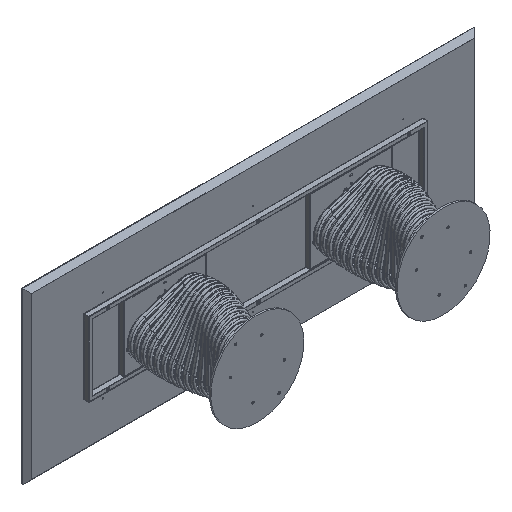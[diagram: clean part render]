
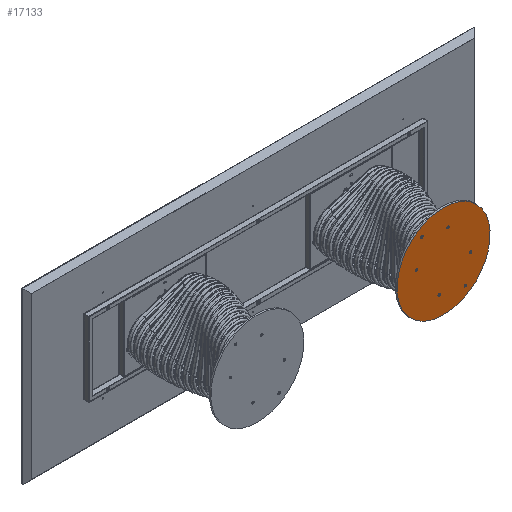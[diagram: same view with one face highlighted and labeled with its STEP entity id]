
A CAD part, isometric view. The second image highlights one B-rep face of the part: STEP entity #17133.
In plain terms, the highlighted planar face has unit normal (0, -1, 0).
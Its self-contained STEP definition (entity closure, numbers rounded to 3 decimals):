
#371 = ORIENTED_EDGE ( 'NONE', *, *, #12466, .F. ) ;
#412 = FACE_OUTER_BOUND ( 'NONE', #4125, .T. ) ;
#438 = CIRCLE ( 'NONE', #19757, 8.65 ) ;
#465 = CIRCLE ( 'NONE', #11072, 8.65 ) ;
#519 = EDGE_LOOP ( 'NONE', ( #21240, #673 ) ) ;
#606 = VERTEX_POINT ( 'NONE', #7004 ) ;
#673 = ORIENTED_EDGE ( 'NONE', *, *, #22962, .F. ) ;
#1602 = EDGE_CURVE ( 'NONE', #12951, #18670, #465, .T. ) ;
#1740 = DIRECTION ( 'NONE',  ( 0., -1., 0. ) ) ;
#1958 = CARTESIAN_POINT ( 'NONE',  ( 0., 0., 0. ) ) ;
#2118 = DIRECTION ( 'NONE',  ( 0., -1., 0. ) ) ;
#2119 = CARTESIAN_POINT ( 'NONE',  ( 150., 0., 151.15 ) ) ;
#2197 = CIRCLE ( 'NONE', #11308, 8.65 ) ;
#2780 = DIRECTION ( 'NONE',  ( 0., 0., -1. ) ) ;
#2972 = EDGE_LOOP ( 'NONE', ( #15050, #3145 ) ) ;
#3145 = ORIENTED_EDGE ( 'NONE', *, *, #10267, .F. ) ;
#3234 = ORIENTED_EDGE ( 'NONE', *, *, #23280, .F. ) ;
#3767 = VERTEX_POINT ( 'NONE', #4471 ) ;
#3863 = FACE_BOUND ( 'NONE', #2972, .T. ) ;
#3885 = CARTESIAN_POINT ( 'NONE',  ( -150., 0., 142.5 ) ) ;
#4125 = EDGE_LOOP ( 'NONE', ( #22492, #6211 ) ) ;
#4282 = AXIS2_PLACEMENT_3D ( 'NONE', #23053, #17615, #21617 ) ;
#4356 = CARTESIAN_POINT ( 'NONE',  ( -150., 0., 133.85 ) ) ;
#4471 = CARTESIAN_POINT ( 'NONE',  ( 150., 0., -151.15 ) ) ;
#5117 = CIRCLE ( 'NONE', #18755, 350. ) ;
#5307 = CARTESIAN_POINT ( 'NONE',  ( -290., 0., 8.65 ) ) ;
#5716 = EDGE_CURVE ( 'NONE', #606, #16769, #20250, .T. ) ;
#5783 = FACE_BOUND ( 'NONE', #519, .T. ) ;
#5938 = EDGE_LOOP ( 'NONE', ( #7562, #20936 ) ) ;
#6174 = CARTESIAN_POINT ( 'NONE',  ( 290., 0., 0. ) ) ;
#6211 = ORIENTED_EDGE ( 'NONE', *, *, #7279, .F. ) ;
#6315 = CIRCLE ( 'NONE', #11621, 8.65 ) ;
#6410 = DIRECTION ( 'NONE',  ( 0., -1., 0. ) ) ;
#6542 = AXIS2_PLACEMENT_3D ( 'NONE', #1958, #10742, #11214 ) ;
#6624 = EDGE_CURVE ( 'NONE', #3767, #11114, #16498, .T. ) ;
#6643 = CARTESIAN_POINT ( 'NONE',  ( 0., 0., 0. ) ) ;
#6935 = AXIS2_PLACEMENT_3D ( 'NONE', #9788, #9551, #2780 ) ;
#7004 = CARTESIAN_POINT ( 'NONE',  ( -150., 0., -151.15 ) ) ;
#7182 = DIRECTION ( 'NONE',  ( 0., 0., 1. ) ) ;
#7279 = EDGE_CURVE ( 'NONE', #15520, #22841, #23332, .T. ) ;
#7427 = FACE_BOUND ( 'NONE', #15314, .T. ) ;
#7497 = CARTESIAN_POINT ( 'NONE',  ( 150., 0., 142.5 ) ) ;
#7562 = ORIENTED_EDGE ( 'NONE', *, *, #11663, .F. ) ;
#8355 = CARTESIAN_POINT ( 'NONE',  ( 290., 0., 8.65 ) ) ;
#8453 = CIRCLE ( 'NONE', #4282, 8.65 ) ;
#8981 = FACE_BOUND ( 'NONE', #5938, .T. ) ;
#8992 = DIRECTION ( 'NONE',  ( 0., 0., -1. ) ) ;
#9376 = DIRECTION ( 'NONE',  ( 0., 0., -1. ) ) ;
#9396 = CIRCLE ( 'NONE', #18080, 8.65 ) ;
#9514 = ORIENTED_EDGE ( 'NONE', *, *, #16293, .F. ) ;
#9551 = DIRECTION ( 'NONE',  ( 0., -1., 0. ) ) ;
#9594 = CARTESIAN_POINT ( 'NONE',  ( 150., 0., 142.5 ) ) ;
#9788 = CARTESIAN_POINT ( 'NONE',  ( -290., 0., 0. ) ) ;
#10092 = VERTEX_POINT ( 'NONE', #8355 ) ;
#10267 = EDGE_CURVE ( 'NONE', #16769, #606, #8453, .T. ) ;
#10454 = EDGE_CURVE ( 'NONE', #19564, #17444, #9396, .T. ) ;
#10489 = CARTESIAN_POINT ( 'NONE',  ( 0., 0., -350. ) ) ;
#10518 = AXIS2_PLACEMENT_3D ( 'NONE', #11443, #16552, #17041 ) ;
#10571 = DIRECTION ( 'NONE',  ( 0., -1., 0. ) ) ;
#10742 = DIRECTION ( 'NONE',  ( 0., 1., 0. ) ) ;
#10846 = CARTESIAN_POINT ( 'NONE',  ( 150., 0., -133.85 ) ) ;
#10943 = EDGE_LOOP ( 'NONE', ( #3234, #371 ) ) ;
#11072 = AXIS2_PLACEMENT_3D ( 'NONE', #12717, #2118, #9376 ) ;
#11088 = CARTESIAN_POINT ( 'NONE',  ( 0., 0., 0. ) ) ;
#11114 = VERTEX_POINT ( 'NONE', #10846 ) ;
#11214 = DIRECTION ( 'NONE',  ( 0., 0., 1. ) ) ;
#11308 = AXIS2_PLACEMENT_3D ( 'NONE', #6174, #17219, #18753 ) ;
#11443 = CARTESIAN_POINT ( 'NONE',  ( 150., 0., -142.5 ) ) ;
#11465 = CIRCLE ( 'NONE', #18673, 8.65 ) ;
#11621 = AXIS2_PLACEMENT_3D ( 'NONE', #15948, #21621, #12616 ) ;
#11663 = EDGE_CURVE ( 'NONE', #17444, #19564, #12049, .T. ) ;
#11931 = AXIS2_PLACEMENT_3D ( 'NONE', #19784, #1740, #8992 ) ;
#11999 = CARTESIAN_POINT ( 'NONE',  ( -150., 0., -133.85 ) ) ;
#12049 = CIRCLE ( 'NONE', #21143, 8.65 ) ;
#12466 = EDGE_CURVE ( 'NONE', #10092, #13422, #2197, .T. ) ;
#12498 = CARTESIAN_POINT ( 'NONE',  ( -150., 0., 142.5 ) ) ;
#12616 = DIRECTION ( 'NONE',  ( 0., 0., -1. ) ) ;
#12717 = CARTESIAN_POINT ( 'NONE',  ( -290., 0., 0. ) ) ;
#12951 = VERTEX_POINT ( 'NONE', #18944 ) ;
#13021 = FACE_BOUND ( 'NONE', #10943, .T. ) ;
#13124 = AXIS2_PLACEMENT_3D ( 'NONE', #11088, #18350, #7182 ) ;
#13422 = VERTEX_POINT ( 'NONE', #22230 ) ;
#13899 = DIRECTION ( 'NONE',  ( 0., 1., 0. ) ) ;
#14078 = VERTEX_POINT ( 'NONE', #22147 ) ;
#14124 = VERTEX_POINT ( 'NONE', #4356 ) ;
#14439 = CARTESIAN_POINT ( 'NONE',  ( 150., 0., 133.85 ) ) ;
#14932 = ORIENTED_EDGE ( 'NONE', *, *, #18973, .F. ) ;
#14952 = DIRECTION ( 'NONE',  ( 0., 0., -1. ) ) ;
#14984 = DIRECTION ( 'NONE',  ( 0., 0., -1. ) ) ;
#15050 = ORIENTED_EDGE ( 'NONE', *, *, #5716, .F. ) ;
#15314 = EDGE_LOOP ( 'NONE', ( #16247, #9514 ) ) ;
#15317 = DIRECTION ( 'NONE',  ( 0., 0., -1. ) ) ;
#15520 = VERTEX_POINT ( 'NONE', #19579 ) ;
#15948 = CARTESIAN_POINT ( 'NONE',  ( 290., 0., 0. ) ) ;
#16247 = ORIENTED_EDGE ( 'NONE', *, *, #18336, .F. ) ;
#16293 = EDGE_CURVE ( 'NONE', #14078, #14124, #438, .T. ) ;
#16498 = CIRCLE ( 'NONE', #19528, 8.65 ) ;
#16552 = DIRECTION ( 'NONE',  ( 0., -1., 0. ) ) ;
#16605 = DIRECTION ( 'NONE',  ( 0., 0., -1. ) ) ;
#16769 = VERTEX_POINT ( 'NONE', #11999 ) ;
#17041 = DIRECTION ( 'NONE',  ( 0., 0., -1. ) ) ;
#17133 = ADVANCED_FACE ( 'NONE', ( #22143, #3863, #5783, #13021, #8981, #7427, #412 ), #20238, .F. ) ;
#17219 = DIRECTION ( 'NONE',  ( 0., -1., 0. ) ) ;
#17444 = VERTEX_POINT ( 'NONE', #14439 ) ;
#17615 = DIRECTION ( 'NONE',  ( 0., -1., 0. ) ) ;
#18080 = AXIS2_PLACEMENT_3D ( 'NONE', #9594, #22540, #14952 ) ;
#18311 = CIRCLE ( 'NONE', #6935, 8.65 ) ;
#18336 = EDGE_CURVE ( 'NONE', #14124, #14078, #11465, .T. ) ;
#18350 = DIRECTION ( 'NONE',  ( 0., 1., 0. ) ) ;
#18670 = VERTEX_POINT ( 'NONE', #5307 ) ;
#18673 = AXIS2_PLACEMENT_3D ( 'NONE', #3885, #20380, #16605 ) ;
#18753 = DIRECTION ( 'NONE',  ( 0., 0., -1. ) ) ;
#18755 = AXIS2_PLACEMENT_3D ( 'NONE', #6643, #13899, #21125 ) ;
#18899 = EDGE_LOOP ( 'NONE', ( #21725, #14932 ) ) ;
#18944 = CARTESIAN_POINT ( 'NONE',  ( -290., 0., -8.65 ) ) ;
#18973 = EDGE_CURVE ( 'NONE', #18670, #12951, #18311, .T. ) ;
#19528 = AXIS2_PLACEMENT_3D ( 'NONE', #22428, #6410, #15317 ) ;
#19564 = VERTEX_POINT ( 'NONE', #2119 ) ;
#19579 = CARTESIAN_POINT ( 'NONE',  ( 0., 0., 350. ) ) ;
#19757 = AXIS2_PLACEMENT_3D ( 'NONE', #12498, #10571, #23284 ) ;
#19784 = CARTESIAN_POINT ( 'NONE',  ( -150., 0., -142.5 ) ) ;
#20238 = PLANE ( 'NONE',  #6542 ) ;
#20250 = CIRCLE ( 'NONE', #11931, 8.65 ) ;
#20380 = DIRECTION ( 'NONE',  ( 0., -1., 0. ) ) ;
#20774 = CIRCLE ( 'NONE', #10518, 8.65 ) ;
#20936 = ORIENTED_EDGE ( 'NONE', *, *, #10454, .F. ) ;
#21125 = DIRECTION ( 'NONE',  ( 0., 0., 1. ) ) ;
#21143 = AXIS2_PLACEMENT_3D ( 'NONE', #7497, #21741, #14984 ) ;
#21150 = EDGE_CURVE ( 'NONE', #22841, #15520, #5117, .T. ) ;
#21240 = ORIENTED_EDGE ( 'NONE', *, *, #6624, .F. ) ;
#21617 = DIRECTION ( 'NONE',  ( 0., 0., -1. ) ) ;
#21621 = DIRECTION ( 'NONE',  ( 0., -1., 0. ) ) ;
#21725 = ORIENTED_EDGE ( 'NONE', *, *, #1602, .F. ) ;
#21741 = DIRECTION ( 'NONE',  ( 0., -1., 0. ) ) ;
#22143 = FACE_BOUND ( 'NONE', #18899, .T. ) ;
#22147 = CARTESIAN_POINT ( 'NONE',  ( -150., 0., 151.15 ) ) ;
#22230 = CARTESIAN_POINT ( 'NONE',  ( 290., 0., -8.65 ) ) ;
#22428 = CARTESIAN_POINT ( 'NONE',  ( 150., 0., -142.5 ) ) ;
#22492 = ORIENTED_EDGE ( 'NONE', *, *, #21150, .F. ) ;
#22540 = DIRECTION ( 'NONE',  ( 0., -1., 0. ) ) ;
#22841 = VERTEX_POINT ( 'NONE', #10489 ) ;
#22962 = EDGE_CURVE ( 'NONE', #11114, #3767, #20774, .T. ) ;
#23053 = CARTESIAN_POINT ( 'NONE',  ( -150., 0., -142.5 ) ) ;
#23280 = EDGE_CURVE ( 'NONE', #13422, #10092, #6315, .T. ) ;
#23284 = DIRECTION ( 'NONE',  ( 0., 0., -1. ) ) ;
#23332 = CIRCLE ( 'NONE', #13124, 350. ) ;
